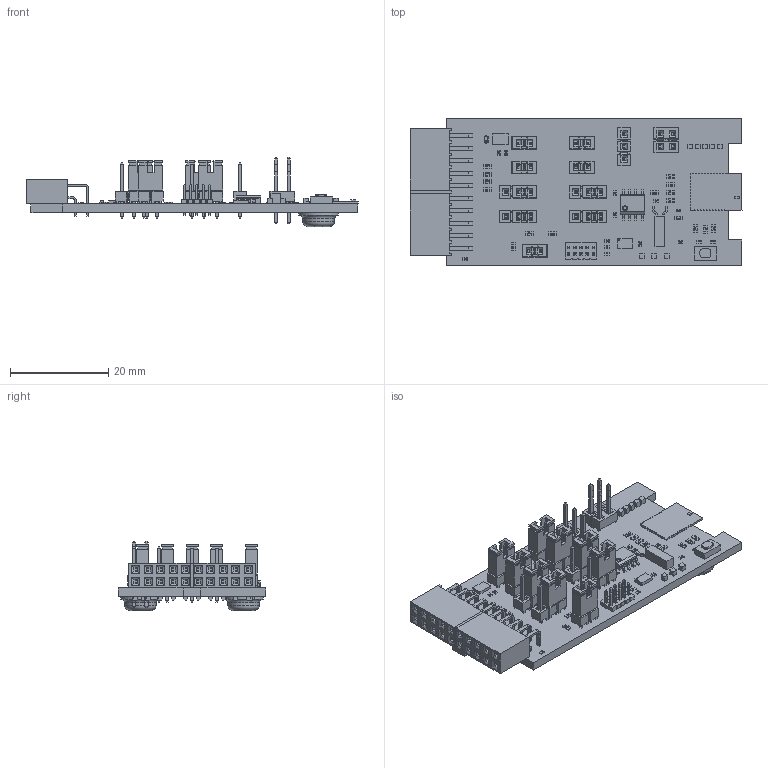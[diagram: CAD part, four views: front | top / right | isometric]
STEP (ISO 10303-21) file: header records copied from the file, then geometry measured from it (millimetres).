
FILE_DESCRIPTION(('Open CASCADE Model'),'2;1');
FILE_NAME('Open CASCADE Shape Model','2016-03-03T14:06:47',('Author'),( 'Open CASCADE'),'Open CASCADE STEP processor 6.5','Open CASCADE 6.5' ,'Unknown');
FILE_SCHEMA(('AUTOMOTIVE_DESIGN { 1 0 10303 214 1 1 1 1 }'));
Length unit declared in the file: millimetre
Products named in the file (119): PCB; Board; U102; for3d(BTLC1000-ZR-XPRO); Free-Models; 978630960; Extruded; XC100; 832579120; 832578992; 832578864; 832578608; 832578736; U103; 832579760; 832579632; 872250424; Cylinder; U101; SOIC-8_2; User_Library-SOIC-8-150_pin_SOIC_SO-150_1; User_Library-SOIC-8-150_SOIC_150_SOIC_5X4_1; U100; 832579248; TP108; 832579888; TP107; TP106; TP105; TP104; TP103; TP102; TP101; SW100; 832581680; 832581552; R118; 0603_SMD_Resistor; R117; R116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
Assembly tree (197 placements, depth 6):
  PCB
    Board
    U102
      for3d(BTLC1000-ZR-XPRO)
        Board
        Free-Models
          978630960
            Extruded
    XC100
      832579120
        Extruded
      832578992  x2
        Extruded
      832578864
        Extruded
      832578608  x2
        Extruded
      832578736
        Extruded
    U103
      832579760
        Extruded
      832579632  x8
        Extruded
      872250424
        Cylinder
    U101
      SOIC-8_2
        User_Library-SOIC-8-150_pin_SOIC_SO-150_1  x8
        User_Library-SOIC-8-150_SOIC_150_SOIC_5X4_1
    U100
      832579248
        Extruded
    TP108
      832579888
        Extruded
    TP107
      832579888
        Extruded
    TP106
      832579888
        Extruded
    TP105
      832579888
        Extruded
    TP104
      832579888
        Extruded
    TP103
      832579888
        Extruded
    TP102
      832579888
        Extruded
    TP101
      832579888
        Extruded
    SW100
      832581680
        Extruded
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Bounding box: 67.5 x 30 x 14.05 mm (x, y, z)
Volume: 5391.2 mm3; surface area: 9840.4 mm2
Topology: 110 solids, 110 shells, 6119 faces, 15082 edges, 9164 vertices
Faces by surface type: plane 4260, bspline 896, cylinder 717, sphere 240, torus 4, cone 2
Full cylindrical faces by diameter (mm): 0.2 x1, 8.001 x2
Entity records: 127296 total; most frequent: CARTESIAN_POINT 34337, DIRECTION 14895, LINE 10916, VECTOR 10916, ORIENTED_EDGE 8542, PCURVE 8542, DEFINITIONAL_REPRESENTATION 8542, EDGE_CURVE 4271
